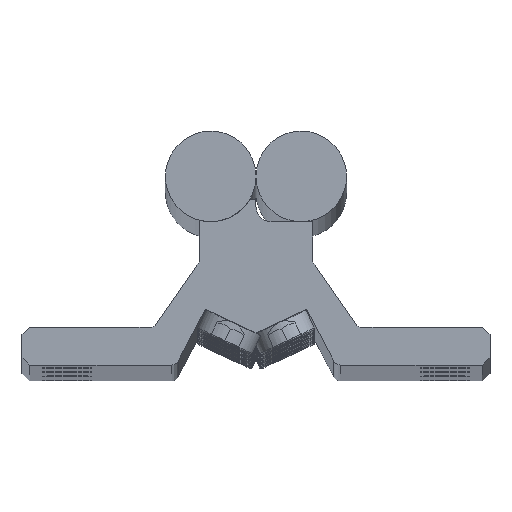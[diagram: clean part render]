
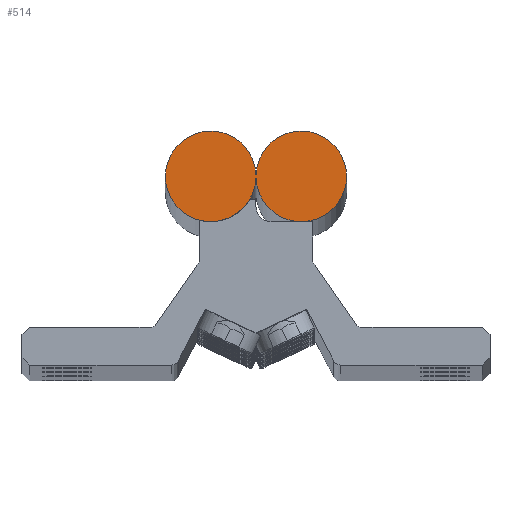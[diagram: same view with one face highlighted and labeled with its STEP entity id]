
A CAD part, top view. The second image highlights one B-rep face of the part: STEP entity #514.
In plain terms, the highlighted planar face has unit normal (0, 0, 1).
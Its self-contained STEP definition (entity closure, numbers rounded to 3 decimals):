
#475 = EDGE_CURVE ( 'NONE', #476, #493, #3778, .T. ) ;
#476 = VERTEX_POINT ( 'NONE', #3774 ) ;
#493 = VERTEX_POINT ( 'NONE', #3815 ) ;
#494 = VERTEX_POINT ( 'NONE', #3814 ) ;
#496 = EDGE_CURVE ( 'NONE', #13001, #494, #3813, .T. ) ;
#514 = ADVANCED_FACE ( 'NONE', ( #3847 ), #3846, .T. ) ;
#515 = EDGE_LOOP ( 'NONE', ( #516, #517, #518, #519, #520 ) ) ;
#516 = ORIENTED_EDGE ( 'NONE', *, *, #13003, .T. ) ;
#517 = ORIENTED_EDGE ( 'NONE', *, *, #496, .T. ) ;
#518 = ORIENTED_EDGE ( 'NONE', *, *, #524, .T. ) ;
#519 = ORIENTED_EDGE ( 'NONE', *, *, #475, .T. ) ;
#520 = ORIENTED_EDGE ( 'NONE', *, *, #549, .T. ) ;
#524 = EDGE_CURVE ( 'NONE', #494, #476, #3839, .T. ) ;
#549 = EDGE_CURVE ( 'NONE', #493, #13004, #3876, .T. ) ;
#3774 = CARTESIAN_POINT ( 'NONE',  ( -0.005, 25.25, 1. ) ) ;
#3775 = DIRECTION ( 'NONE',  ( 1., 0., 0. ) ) ;
#3776 = DIRECTION ( 'NONE',  ( 0., 0., 1. ) ) ;
#3777 = AXIS2_PLACEMENT_3D ( 'NONE', #3783, #3776, #3775 ) ;
#3778 = CIRCLE ( 'NONE', #3777, 6. ) ;
#3783 = CARTESIAN_POINT ( 'NONE',  ( -6., 25., 1. ) ) ;
#3809 = DIRECTION ( 'NONE',  ( 1., 0., 0. ) ) ;
#3810 = DIRECTION ( 'NONE',  ( 0., 0., 1. ) ) ;
#3811 = CARTESIAN_POINT ( 'NONE',  ( 6., 25., 1. ) ) ;
#3812 = AXIS2_PLACEMENT_3D ( 'NONE', #3811, #3810, #3809 ) ;
#3813 = CIRCLE ( 'NONE', #3812, 6. ) ;
#3814 = CARTESIAN_POINT ( 'NONE',  ( 0.005, 25.25, 1. ) ) ;
#3815 = CARTESIAN_POINT ( 'NONE',  ( -0.005, 24.75, 1. ) ) ;
#3832 = DIRECTION ( 'NONE',  ( -1., 0., 0. ) ) ;
#3833 = VECTOR ( 'NONE', #3832, 1000. ) ;
#3834 = CARTESIAN_POINT ( 'NONE',  ( 0.005, 25.25, 1. ) ) ;
#3839 = LINE ( 'NONE', #3834, #3833 ) ;
#3842 = DIRECTION ( 'NONE',  ( 1., 0., 0. ) ) ;
#3843 = DIRECTION ( 'NONE',  ( 0., 0., 1. ) ) ;
#3844 = CARTESIAN_POINT ( 'NONE',  ( 6., 25., 1. ) ) ;
#3845 = AXIS2_PLACEMENT_3D ( 'NONE', #3844, #3843, #3842 ) ;
#3846 = PLANE ( 'NONE',  #3845 ) ;
#3847 = FACE_OUTER_BOUND ( 'NONE', #515, .T. ) ;
#3873 = DIRECTION ( 'NONE',  ( 1., 0., 0. ) ) ;
#3874 = VECTOR ( 'NONE', #3873, 1000. ) ;
#3875 = CARTESIAN_POINT ( 'NONE',  ( -0.005, 24.75, 1. ) ) ;
#3876 = LINE ( 'NONE', #3875, #3874 ) ;
#13001 = VERTEX_POINT ( 'NONE', #19584 ) ;
#13003 = EDGE_CURVE ( 'NONE', #13004, #13001, #19583, .T. ) ;
#13004 = VERTEX_POINT ( 'NONE', #19578 ) ;
#19578 = CARTESIAN_POINT ( 'NONE',  ( 0.005, 24.75, 1. ) ) ;
#19579 = DIRECTION ( 'NONE',  ( 1., 0., 0. ) ) ;
#19580 = DIRECTION ( 'NONE',  ( 0., 0., 1. ) ) ;
#19581 = CARTESIAN_POINT ( 'NONE',  ( 6., 25., 1. ) ) ;
#19582 = AXIS2_PLACEMENT_3D ( 'NONE', #19581, #19580, #19579 ) ;
#19583 = CIRCLE ( 'NONE', #19582, 6. ) ;
#19584 = CARTESIAN_POINT ( 'NONE',  ( 12., 25., 1. ) ) ;
